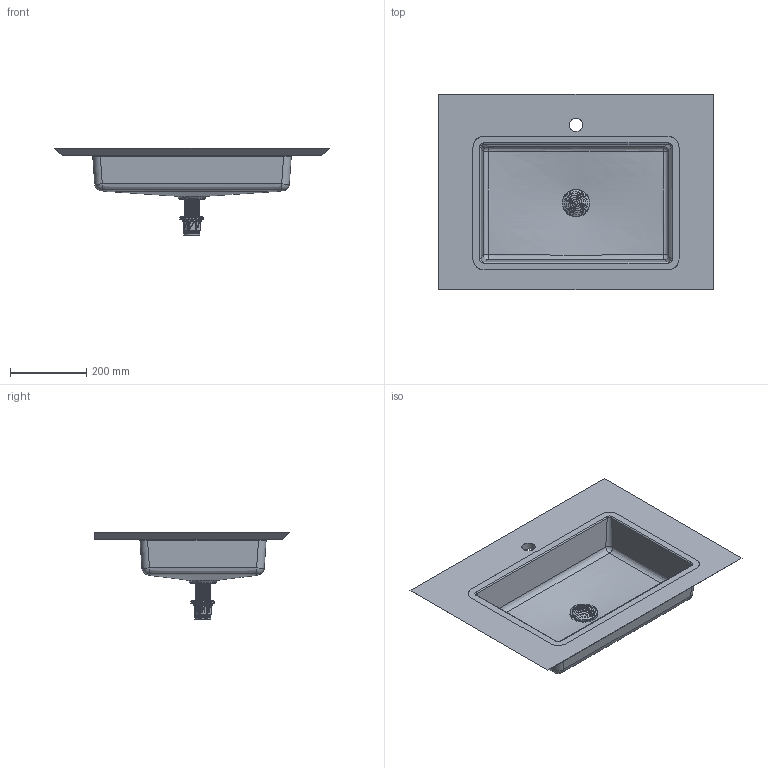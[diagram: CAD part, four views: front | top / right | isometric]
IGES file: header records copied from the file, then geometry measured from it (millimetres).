
Start section: Data from Parasolid IGES Translator 19.0.9, Copyright(c) 2006 Siemens PL M Software. All Rights Reserved.
Global section: file name: noorth-top-H 1,9 D 51,3 W 72_6536.igs; native system: By Siemens PLM Incorporated; preprocessor: XPlus GENERIC/IGES 19.0.9; author: Noname; organization: Noname; date: 20200603.084945; units: metre
Bounding box: 720 x 512 x 229.51 mm (x, y, z)
Volume: 7122697.7 mm3; surface area: 1155451.3 mm2
Topology: 2 solids, 2 shells, 11699 faces, 35041 edges, 34960 vertices
Faces by surface type: extrusion 11618, bspline 41, plane 25, cylinder 14, cone 1
Full cylindrical faces by diameter (mm): 34.9 x1, 45 x1
